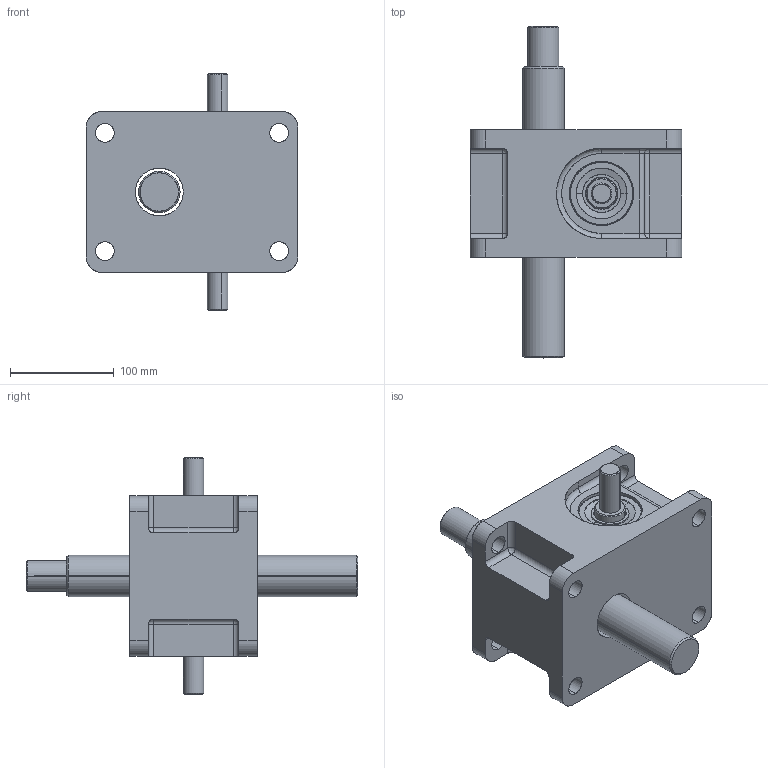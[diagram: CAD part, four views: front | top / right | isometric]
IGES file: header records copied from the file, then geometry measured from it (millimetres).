
Start section: SolidWorks IGES file using analytic representation for surfaces
Global section: file name: E:\3D\desenv\Solid Works\Levy\web\LMA\LMA5.0\LMA5.0.IGS; native system: SolidWorks 2008; preprocessor: SolidWorks 2008; author: User; date: 080730.212617; units: millimetre
Bounding box: 204 x 320 x 228 mm (x, y, z)
Surface area: 290345.1 mm2 (no closed solid volume)
Topology: 0 solids, 0 shells, 207 faces, 3988 edges, 3986 vertices
Faces by surface type: revolution 149, bspline 58
